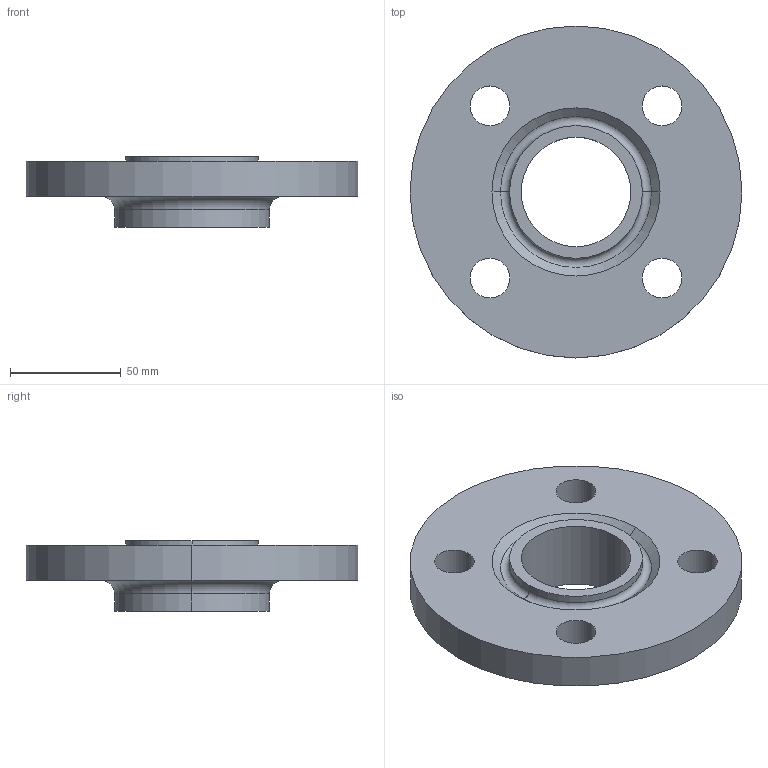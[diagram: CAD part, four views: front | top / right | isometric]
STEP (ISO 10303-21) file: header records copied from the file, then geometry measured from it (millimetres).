
FILE_DESCRIPTION (( 'STEP AP214' ), '1' );
FILE_NAME ('PN40 DN40 Type 12 - Type H Face.STEP', '2018-12-30T01:40:12', ( '' ), ( '' ), 'SwSTEP 2.0', 'SolidWorks 2019', '' );
FILE_SCHEMA (( 'AUTOMOTIVE_DESIGN' ));
Length unit declared in the file: millimetre
Products named in the file (1): PN40 DN40 Type 12 - Type H Face
Bounding box: 150 x 150 x 32 mm (x, y, z)
Volume: 261705.8 mm3; surface area: 49374.1 mm2
Topology: 1 solids, 1 shells, 26 faces, 60 edges, 38 vertices
Faces by surface type: cylinder 16, torus 4, plane 4, cone 2
Entity records: 812 total; most frequent: DIRECTION 156, CARTESIAN_POINT 125, ORIENTED_EDGE 120, AXIS2_PLACEMENT_3D 69, EDGE_CURVE 60, CIRCLE 42, VERTEX_POINT 38, EDGE_LOOP 38
